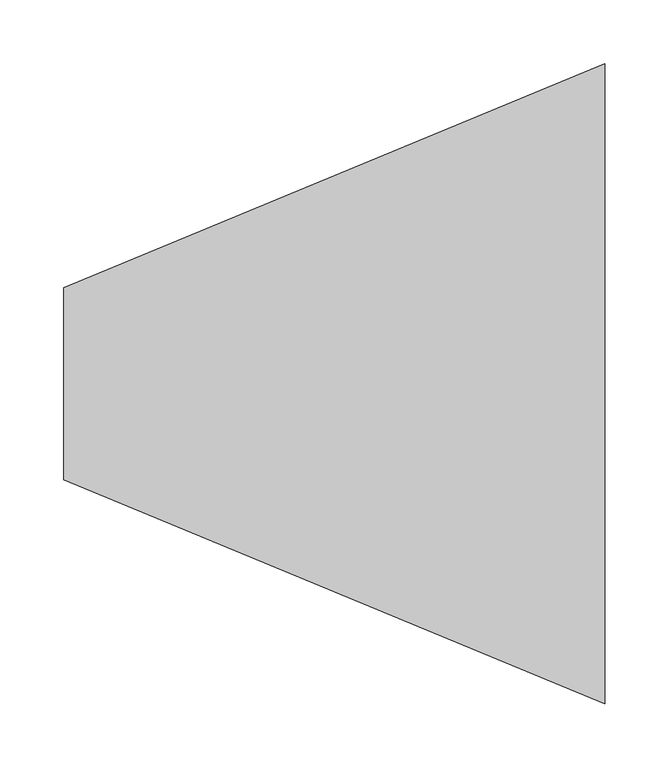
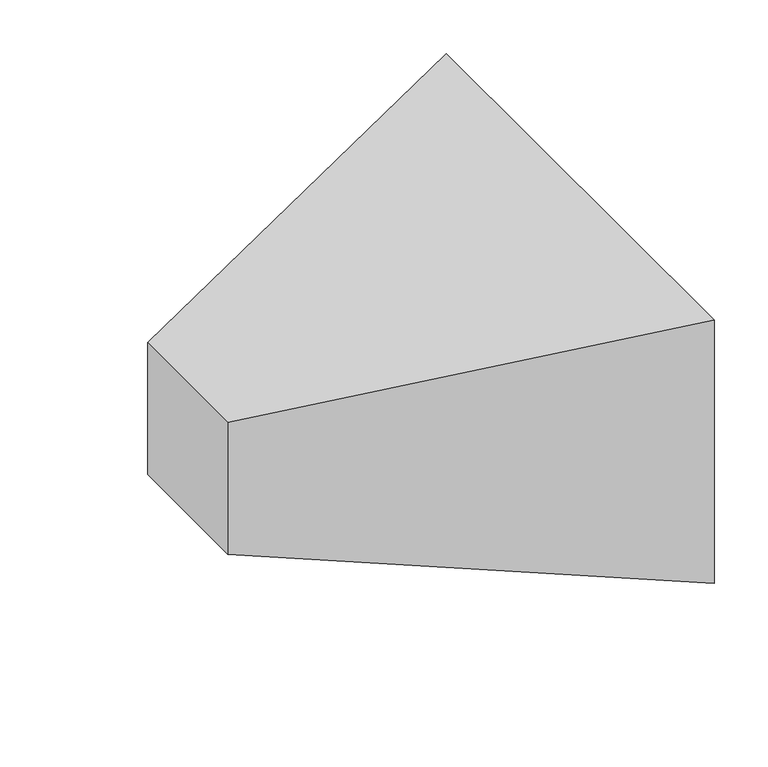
"""IFC4 building model written with IfcOpenShell, lengths in millimetres: duct fitting geometry, M_Transición rectangular - Ángulo : APT_45 graus."""

from ifc_helpers import new_model, si_unit, origin, place, context, project, spatial, faceted_brep, source, transform, mapped, element, save


def duct_fitting_d6645870(model_context):
    return source(origin(), model_context, "Body", "Brep", [
        faceted_brep([(422.4873734, -250.0, 150.0), (422.4873734, -250.0, -150.0), (422.4873734, 250.0, -150.0), (422.4873734, 250.0, 150.0), (0.0, -75.0, 75.0), (0.0, 75.0, 75.0), (0.0, 75.0, -75.0), (0.0, -75.0, -75.0)], [[[0, 1, 2, 3]], [[4, 5, 6, 7]], [[4, 7, 1, 0]], [[7, 6, 2, 1]], [[6, 5, 3, 2]], [[5, 4, 0, 3]]]),
    ])


if __name__ == "__main__":
    model = new_model("IFC4")
    model_context = context("Model", 3, world=origin())
    ifc_project = project(units=[si_unit("LENGTHUNIT", "METRE", prefix="MILLI")], contexts=[model_context])
    site = spatial("IfcSite", under=ifc_project)
    building = spatial("IfcBuilding", under=site)
    placement = place(None, origin())
    duct_fitting_shape = duct_fitting_d6645870(model_context)
    element("IfcDuctFitting", 1, ObjectType="M_Transición rectangular - Ángulo : APT_45 graus", at=placement, inside=building, context=model_context, shape_type="MappedRepresentation", body=[
        mapped(duct_fitting_shape, transform((0.0, 0.0, 0.0), x_axis=(1.0, 0.0, 0.0), y_axis=(0.0, 1.0, 0.0), z_axis=(0.0, 0.0, 1.0))),
    ])
    save(model, "model.ifc")
